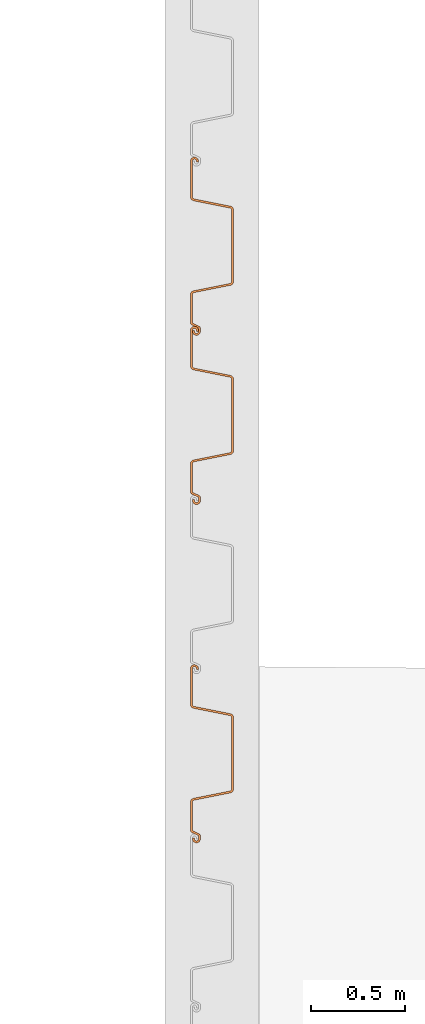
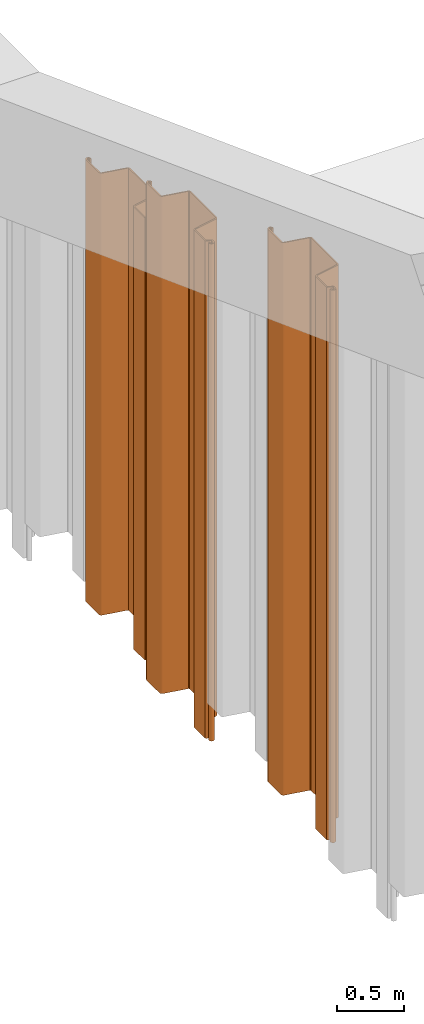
# One storey, part 14 of 15: 3 proxies.
"""IFC2X3 building model written with IfcOpenShell, lengths in millimetres."""

from ifc_helpers import new_model, entity, si_unit, converted_unit, derived_unit, direction, frame, frame_2d, origin, place, context, subcontext, project, spatial, polyline, circle_curve, parameter, trimmed, segment, composite_curve, outline, extrude, source, transform, mapped, material, type_object, type_shapes, element, save


model = new_model("IFC2X3")

# Units and contexts
model_context = context("Model", 3, precision=0.01, world=origin(), true_north=direction((6.12303176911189e-17, 1.0)))
body_context = subcontext(model_context, "Body", "Model", "MODEL_VIEW")
ifc_project = project(units=[si_unit("LENGTHUNIT", "METRE", prefix="MILLI"), si_unit("AREAUNIT", "SQUARE_METRE"), si_unit("VOLUMEUNIT", "CUBIC_METRE"), converted_unit("PLANEANGLEUNIT", "DEGREE", entity("IfcRatioMeasure", 0.0174532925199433), si_unit("PLANEANGLEUNIT", "RADIAN"), dimensions=[0, 0, 0, 0, 0, 0, 0]), si_unit("MASSUNIT", "GRAM", prefix="KILO"), derived_unit("MASSDENSITYUNIT", [(si_unit("MASSUNIT", "GRAM", prefix="KILO"), 1), (si_unit("LENGTHUNIT", "METRE"), -3)]), derived_unit("MOMENTOFINERTIAUNIT", [(si_unit("LENGTHUNIT", "METRE"), 4)]), si_unit("TIMEUNIT", "SECOND"), si_unit("FREQUENCYUNIT", "HERTZ"), si_unit("THERMODYNAMICTEMPERATUREUNIT", "DEGREE_CELSIUS"), derived_unit("THERMALTRANSMITTANCEUNIT", [(si_unit("MASSUNIT", "GRAM", prefix="KILO"), 1), (si_unit("THERMODYNAMICTEMPERATUREUNIT", "KELVIN"), -1), (si_unit("TIMEUNIT", "SECOND"), -3)]), derived_unit("VOLUMETRICFLOWRATEUNIT", [(si_unit("LENGTHUNIT", "METRE"), 3), (si_unit("TIMEUNIT", "SECOND"), -1)]), si_unit("ELECTRICCURRENTUNIT", "AMPERE"), si_unit("ELECTRICVOLTAGEUNIT", "VOLT"), si_unit("POWERUNIT", "WATT"), si_unit("FORCEUNIT", "NEWTON", prefix="KILO"), si_unit("ILLUMINANCEUNIT", "LUX"), si_unit("LUMINOUSFLUXUNIT", "LUMEN"), si_unit("LUMINOUSINTENSITYUNIT", "CANDELA"), derived_unit("USERDEFINED", [(si_unit("MASSUNIT", "GRAM", prefix="KILO"), -1), (si_unit("LENGTHUNIT", "METRE"), -2), (si_unit("TIMEUNIT", "SECOND"), 3), (si_unit("LUMINOUSFLUXUNIT", "LUMEN"), 1)]), derived_unit("LINEARVELOCITYUNIT", [(si_unit("LENGTHUNIT", "METRE"), 1), (si_unit("TIMEUNIT", "SECOND"), -1)]), si_unit("PRESSUREUNIT", "PASCAL"), derived_unit("USERDEFINED", [(si_unit("LENGTHUNIT", "METRE"), -2), (si_unit("MASSUNIT", "GRAM", prefix="KILO"), 1), (si_unit("TIMEUNIT", "SECOND"), -2)]), derived_unit("LINEARFORCEUNIT", [(si_unit("MASSUNIT", "GRAM", prefix="KILO"), 1), (si_unit("LENGTHUNIT", "METRE"), 1), (si_unit("TIMEUNIT", "SECOND"), -2), (si_unit("LENGTHUNIT", "METRE"), -1)]), derived_unit("PLANARFORCEUNIT", [(si_unit("MASSUNIT", "GRAM", prefix="KILO"), 1), (si_unit("LENGTHUNIT", "METRE"), 1), (si_unit("TIMEUNIT", "SECOND"), -2), (si_unit("LENGTHUNIT", "METRE"), -2)])], contexts=[model_context])

# Site, building, storey
site_placement = place(None, origin())
site = spatial("IfcSite", under=ifc_project, at=site_placement, Name="Default", CompositionType="ELEMENT")
building_placement = place(site_placement, origin())
building = spatial("IfcBuilding", under=site, at=building_placement, CompositionType="ELEMENT")
storey_placement = place(building_placement, frame((0.0, 0.0, 9500.0)))
storey = spatial("IfcBuildingStorey", under=building, at=storey_placement, Name="AP+9.500", CompositionType="ELEMENT", Elevation=9500.0)

# Proxies
ifc_material = material(Name="<Unnamed>")
building_element_proxy_type_1 = type_object("IfcBuildingElementProxyType", Name="鋼矢板10H型:鋼矢板10H型", PredefinedType="NOTDEFINED", material=ifc_material)
shared_shape_1 = source(origin(), body_context, "Body", "SweptSolid", [
    extrude(outline(composite_curve([segment(trimmed(circle_curve(frame_2d((85.3662976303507, 306.644432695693), x_axis=(0.422618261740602, 0.906307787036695)), 13.885714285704), [parameter(24.9999999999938)], [parameter(90.0000000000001)], True, "PARAMETER"), True, "CONTINUOUS"), segment(polyline([(72.7815666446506, 312.512789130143), (9.8129512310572, 177.476157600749)]), True, "CONTINUOUS"), segment(trimmed(circle_curve(frame_2d((29.3891994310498, 168.347603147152), x_axis=(0.422618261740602, 0.906307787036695)), 21.6), [parameter(90.0000000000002)], [parameter(168.69006752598)], True, "PARAMETER"), True, "CONTINUOUS"), segment(polyline([(16.598697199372, 150.941769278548), (175.329723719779, 34.2998683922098)]), True, "CONTINUOUS"), segment(trimmed(circle_curve(frame_2d((168.93447260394, 25.596951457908), x_axis=(0.422618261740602, 0.906307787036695)), 10.7999999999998), [parameter(270.0)], [parameter(348.690067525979)], True, "PARAMETER"), False, "CONTINUOUS"), segment(polyline([(178.722596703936, 21.0326742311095), (18.2974003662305, -323.000269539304)]), True, "CONTINUOUS"), segment(trimmed(circle_curve(frame_2d((8.50927626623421, -318.435992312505), x_axis=(0.422618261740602, 0.906307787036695)), 10.8), [parameter(191.30993247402)], [parameter(269.999999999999)], True, "PARAMETER"), False, "CONTINUOUS"), segment(polyline([(5.95324328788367, -328.929166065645), (-185.429973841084, -282.310113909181)]), True, "CONTINUOUS"), segment(trimmed(circle_curve(frame_2d((-190.542039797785, -303.296461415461), x_axis=(0.422618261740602, 0.906307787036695)), 21.6000000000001), [parameter(11.3099324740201)], [parameter(90.0000000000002)], True, "PARAMETER"), True, "CONTINUOUS"), segment(polyline([(-210.118287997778, -294.167906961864), (-290.330886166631, -466.184378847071)]), True, "CONTINUOUS"), segment(trimmed(circle_curve(frame_2d((-270.754637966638, -475.312933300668), x_axis=(0.422618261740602, 0.906307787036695)), 21.6), [parameter(90.0000000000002)], [parameter(269.999999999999)], True, "PARAMETER"), True, "CONTINUOUS"), segment(polyline([(-251.178389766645, -484.441487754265), (-249.065298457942, -479.909948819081)]), True, "CONTINUOUS"), segment(polyline([(-249.065298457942, -479.909948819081), (-258.853422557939, -475.345671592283)]), True, "CONTINUOUS"), segment(polyline([(-258.853422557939, -475.345671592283), (-260.966513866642, -479.877210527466)]), True, "CONTINUOUS"), segment(trimmed(circle_curve(frame_2d((-270.754637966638, -475.312933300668), x_axis=(0.422618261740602, 0.906307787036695)), 10.8), [parameter(90.0000000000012)], [parameter(270.0)], True, "PARAMETER"), False, "CONTINUOUS"), segment(polyline([(-280.542762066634, -470.748656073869), (-200.330163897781, -298.732184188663)]), True, "CONTINUOUS"), segment(trimmed(circle_curve(frame_2d((-190.542039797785, -303.296461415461), x_axis=(0.422618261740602, 0.906307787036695)), 10.8), [parameter(11.3099324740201)], [parameter(89.9999999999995)], True, "PARAMETER"), False, "CONTINUOUS"), segment(polyline([(-187.986006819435, -292.803287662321), (3.39721030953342, -339.422339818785)]), True, "CONTINUOUS"), segment(trimmed(circle_curve(frame_2d((8.50927626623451, -318.435992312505), x_axis=(0.422618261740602, 0.906307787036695)), 21.6), [parameter(191.30993247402)], [parameter(270.0)], True, "PARAMETER"), True, "CONTINUOUS"), segment(polyline([(28.0855244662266, -327.564546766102), (188.510720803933, 16.4683970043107)]), True, "CONTINUOUS"), segment(trimmed(circle_curve(frame_2d((168.93447260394, 25.5969514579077), x_axis=(0.422618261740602, 0.906307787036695)), 21.6), [parameter(270.0)], [parameter(348.69006752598)], True, "PARAMETER"), True, "CONTINUOUS"), segment(polyline([(181.724974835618, 43.0027853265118), (22.9939483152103, 159.644686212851)]), True, "CONTINUOUS"), segment(trimmed(circle_curve(frame_2d((29.3891994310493, 168.347603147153), x_axis=(0.422618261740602, 0.906307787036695)), 10.7999999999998), [parameter(89.9999999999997)], [parameter(168.690067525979)], True, "PARAMETER"), False, "CONTINUOUS"), segment(polyline([(19.6010753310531, 172.911880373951), (82.5696907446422, 307.948511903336)]), True, "CONTINUOUS"), segment(trimmed(circle_curve(frame_2d((85.3662976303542, 306.64443269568), x_axis=(0.422618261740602, 0.906307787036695)), 3.08571428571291), [parameter(25.0000000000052)], [parameter(90.0000000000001)], True, "PARAMETER"), False, "CONTINUOUS"), segment(polyline([(85.3662976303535, 309.730146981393), (122.220231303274, 309.730146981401)]), True, "CONTINUOUS"), segment(trimmed(circle_curve(frame_2d((122.220231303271, 323.615861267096), x_axis=(0.422618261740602, 0.906307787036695)), 13.8857142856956), [parameter(205.000000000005)], [parameter(270.0)], True, "PARAMETER"), True, "CONTINUOUS"), segment(polyline([(134.804962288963, 317.747504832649), (141.079261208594, 331.202782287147)]), True, "CONTINUOUS"), segment(trimmed(circle_curve(frame_2d((121.503013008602, 340.331336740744), x_axis=(0.422618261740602, 0.906307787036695)), 21.6), [parameter(270.0)], [parameter(90.0000000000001)], True, "PARAMETER"), True, "CONTINUOUS"), segment(polyline([(101.926764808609, 349.459891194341), (99.8136734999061, 344.928352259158)]), True, "CONTINUOUS"), segment(polyline([(99.8136734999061, 344.928352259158), (109.601797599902, 340.364075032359)]), True, "CONTINUOUS"), segment(polyline([(109.601797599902, 340.364075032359), (111.714888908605, 344.895613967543)]), True, "CONTINUOUS"), segment(trimmed(circle_curve(frame_2d((121.503013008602, 340.331336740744), x_axis=(0.422618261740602, 0.906307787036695)), 10.8), [parameter(270.0)], [parameter(89.9999999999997)], True, "PARAMETER"), False, "CONTINUOUS"), segment(polyline([(131.291137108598, 335.767059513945), (125.01683818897, 322.311782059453)]), True, "CONTINUOUS"), segment(trimmed(circle_curve(frame_2d((122.220231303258, 323.615861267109), x_axis=(0.422618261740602, 0.906307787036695)), 3.08571428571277), [parameter(204.999999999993)], [parameter(270.0)], True, "PARAMETER"), False, "CONTINUOUS"), segment(polyline([(122.220231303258, 320.530146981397), (85.3662976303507, 320.530146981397)]), True, "CONTINUOUS")], self_intersect=False)), frame((95.205667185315, -48.8888888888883, -4000.0), z_axis=(0.0, 0.0, -1.0), x_axis=(0.4226182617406, 0.906307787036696, 0.0)), (0.0, 0.0, -1.0), 4000.0),
])
type_shapes(building_element_proxy_type_1, [shared_shape_1])
proxy_1_placement = place(storey_placement, frame((89754.0, 24805.0, 137.165677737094), z_axis=(0.0, 0.0, 1.0), x_axis=(0.0, -1.0, 0.0)))
element("IfcBuildingElementProxy", 1, at=proxy_1_placement, inside=storey, type_object=building_element_proxy_type_1, material=ifc_material, Name="鋼矢板10H型:鋼矢板10H型", ObjectType="鋼矢板10H型:鋼矢板10H型", context=body_context, shape_type="MappedRepresentation", body=[
    mapped(shared_shape_1, transform((0.0, 0.0, 0.0), scale=1.0)),
])
building_element_proxy_type_2 = type_object("IfcBuildingElementProxyType", Name="鋼矢板10H型:鋼矢板10H型", PredefinedType="NOTDEFINED", material=ifc_material)
shared_shape_2 = source(origin(), body_context, "Body", "SweptSolid", [
    extrude(outline(composite_curve([segment(trimmed(circle_curve(frame_2d((85.3662976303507, 306.644432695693), x_axis=(0.422618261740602, 0.906307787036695)), 13.885714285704), [parameter(24.9999999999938)], [parameter(90.0000000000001)], True, "PARAMETER"), True, "CONTINUOUS"), segment(polyline([(72.7815666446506, 312.512789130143), (9.8129512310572, 177.476157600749)]), True, "CONTINUOUS"), segment(trimmed(circle_curve(frame_2d((29.3891994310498, 168.347603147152), x_axis=(0.422618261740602, 0.906307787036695)), 21.6), [parameter(90.0000000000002)], [parameter(168.69006752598)], True, "PARAMETER"), True, "CONTINUOUS"), segment(polyline([(16.598697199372, 150.941769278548), (175.329723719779, 34.2998683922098)]), True, "CONTINUOUS"), segment(trimmed(circle_curve(frame_2d((168.93447260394, 25.596951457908), x_axis=(0.422618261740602, 0.906307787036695)), 10.7999999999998), [parameter(270.0)], [parameter(348.690067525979)], True, "PARAMETER"), False, "CONTINUOUS"), segment(polyline([(178.722596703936, 21.0326742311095), (18.2974003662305, -323.000269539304)]), True, "CONTINUOUS"), segment(trimmed(circle_curve(frame_2d((8.50927626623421, -318.435992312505), x_axis=(0.422618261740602, 0.906307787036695)), 10.8), [parameter(191.30993247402)], [parameter(269.999999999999)], True, "PARAMETER"), False, "CONTINUOUS"), segment(polyline([(5.95324328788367, -328.929166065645), (-185.429973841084, -282.310113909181)]), True, "CONTINUOUS"), segment(trimmed(circle_curve(frame_2d((-190.542039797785, -303.296461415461), x_axis=(0.422618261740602, 0.906307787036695)), 21.6000000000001), [parameter(11.3099324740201)], [parameter(90.0000000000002)], True, "PARAMETER"), True, "CONTINUOUS"), segment(polyline([(-210.118287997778, -294.167906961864), (-290.330886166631, -466.184378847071)]), True, "CONTINUOUS"), segment(trimmed(circle_curve(frame_2d((-270.754637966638, -475.312933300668), x_axis=(0.422618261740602, 0.906307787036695)), 21.6), [parameter(90.0000000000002)], [parameter(269.999999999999)], True, "PARAMETER"), True, "CONTINUOUS"), segment(polyline([(-251.178389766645, -484.441487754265), (-249.065298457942, -479.909948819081)]), True, "CONTINUOUS"), segment(polyline([(-249.065298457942, -479.909948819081), (-258.853422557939, -475.345671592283)]), True, "CONTINUOUS"), segment(polyline([(-258.853422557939, -475.345671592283), (-260.966513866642, -479.877210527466)]), True, "CONTINUOUS"), segment(trimmed(circle_curve(frame_2d((-270.754637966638, -475.312933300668), x_axis=(0.422618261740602, 0.906307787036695)), 10.8), [parameter(90.0000000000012)], [parameter(270.0)], True, "PARAMETER"), False, "CONTINUOUS"), segment(polyline([(-280.542762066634, -470.748656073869), (-200.330163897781, -298.732184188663)]), True, "CONTINUOUS"), segment(trimmed(circle_curve(frame_2d((-190.542039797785, -303.296461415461), x_axis=(0.422618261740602, 0.906307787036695)), 10.8), [parameter(11.3099324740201)], [parameter(89.9999999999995)], True, "PARAMETER"), False, "CONTINUOUS"), segment(polyline([(-187.986006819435, -292.803287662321), (3.39721030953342, -339.422339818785)]), True, "CONTINUOUS"), segment(trimmed(circle_curve(frame_2d((8.50927626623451, -318.435992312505), x_axis=(0.422618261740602, 0.906307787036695)), 21.6), [parameter(191.30993247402)], [parameter(270.0)], True, "PARAMETER"), True, "CONTINUOUS"), segment(polyline([(28.0855244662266, -327.564546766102), (188.510720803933, 16.4683970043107)]), True, "CONTINUOUS"), segment(trimmed(circle_curve(frame_2d((168.93447260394, 25.5969514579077), x_axis=(0.422618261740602, 0.906307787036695)), 21.6), [parameter(270.0)], [parameter(348.69006752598)], True, "PARAMETER"), True, "CONTINUOUS"), segment(polyline([(181.724974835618, 43.0027853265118), (22.9939483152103, 159.644686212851)]), True, "CONTINUOUS"), segment(trimmed(circle_curve(frame_2d((29.3891994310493, 168.347603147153), x_axis=(0.422618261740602, 0.906307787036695)), 10.7999999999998), [parameter(89.9999999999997)], [parameter(168.690067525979)], True, "PARAMETER"), False, "CONTINUOUS"), segment(polyline([(19.6010753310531, 172.911880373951), (82.5696907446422, 307.948511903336)]), True, "CONTINUOUS"), segment(trimmed(circle_curve(frame_2d((85.3662976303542, 306.64443269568), x_axis=(0.422618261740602, 0.906307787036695)), 3.08571428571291), [parameter(25.0000000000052)], [parameter(90.0000000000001)], True, "PARAMETER"), False, "CONTINUOUS"), segment(polyline([(85.3662976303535, 309.730146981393), (122.220231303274, 309.730146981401)]), True, "CONTINUOUS"), segment(trimmed(circle_curve(frame_2d((122.220231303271, 323.615861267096), x_axis=(0.422618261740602, 0.906307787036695)), 13.8857142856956), [parameter(205.000000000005)], [parameter(270.0)], True, "PARAMETER"), True, "CONTINUOUS"), segment(polyline([(134.804962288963, 317.747504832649), (141.079261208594, 331.202782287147)]), True, "CONTINUOUS"), segment(trimmed(circle_curve(frame_2d((121.503013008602, 340.331336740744), x_axis=(0.422618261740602, 0.906307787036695)), 21.6), [parameter(270.0)], [parameter(90.0000000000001)], True, "PARAMETER"), True, "CONTINUOUS"), segment(polyline([(101.926764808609, 349.459891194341), (99.8136734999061, 344.928352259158)]), True, "CONTINUOUS"), segment(polyline([(99.8136734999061, 344.928352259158), (109.601797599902, 340.364075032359)]), True, "CONTINUOUS"), segment(polyline([(109.601797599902, 340.364075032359), (111.714888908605, 344.895613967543)]), True, "CONTINUOUS"), segment(trimmed(circle_curve(frame_2d((121.503013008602, 340.331336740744), x_axis=(0.422618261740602, 0.906307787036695)), 10.8), [parameter(270.0)], [parameter(89.9999999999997)], True, "PARAMETER"), False, "CONTINUOUS"), segment(polyline([(131.291137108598, 335.767059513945), (125.01683818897, 322.311782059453)]), True, "CONTINUOUS"), segment(trimmed(circle_curve(frame_2d((122.220231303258, 323.615861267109), x_axis=(0.422618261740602, 0.906307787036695)), 3.08571428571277), [parameter(204.999999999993)], [parameter(270.0)], True, "PARAMETER"), False, "CONTINUOUS"), segment(polyline([(122.220231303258, 320.530146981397), (85.3662976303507, 320.530146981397)]), True, "CONTINUOUS")], self_intersect=False)), frame((95.205667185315, -48.8888888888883, -4500.0), z_axis=(0.0, 0.0, -1.0), x_axis=(0.4226182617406, 0.906307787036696, 0.0)), (0.0, 0.0, -1.0), 4500.0),
])
type_shapes(building_element_proxy_type_2, [shared_shape_2])
proxy_2_placement = place(storey_placement, frame((89754.0, 23905.0, 473.309702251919), z_axis=(0.0, 0.0, 1.0), x_axis=(0.0, -1.0, 0.0)))
element("IfcBuildingElementProxy", 2, at=proxy_2_placement, inside=storey, type_object=building_element_proxy_type_2, material=ifc_material, Name="鋼矢板10H型:鋼矢板10H型", ObjectType="鋼矢板10H型:鋼矢板10H型", context=body_context, shape_type="MappedRepresentation", body=[
    mapped(shared_shape_2, transform((0.0, 0.0, 0.0), scale=1.0)),
])
building_element_proxy_type_3 = type_object("IfcBuildingElementProxyType", Name="鋼矢板10H型:鋼矢板10H型", PredefinedType="NOTDEFINED", material=ifc_material)
shared_shape_3 = source(origin(), body_context, "Body", "SweptSolid", [
    extrude(outline(composite_curve([segment(trimmed(circle_curve(frame_2d((85.3662976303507, 306.644432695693), x_axis=(0.422618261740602, 0.906307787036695)), 13.885714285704), [parameter(24.9999999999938)], [parameter(90.0000000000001)], True, "PARAMETER"), True, "CONTINUOUS"), segment(polyline([(72.7815666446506, 312.512789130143), (9.8129512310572, 177.476157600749)]), True, "CONTINUOUS"), segment(trimmed(circle_curve(frame_2d((29.3891994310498, 168.347603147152), x_axis=(0.422618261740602, 0.906307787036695)), 21.6), [parameter(90.0000000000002)], [parameter(168.69006752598)], True, "PARAMETER"), True, "CONTINUOUS"), segment(polyline([(16.598697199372, 150.941769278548), (175.329723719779, 34.2998683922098)]), True, "CONTINUOUS"), segment(trimmed(circle_curve(frame_2d((168.93447260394, 25.596951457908), x_axis=(0.422618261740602, 0.906307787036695)), 10.7999999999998), [parameter(270.0)], [parameter(348.690067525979)], True, "PARAMETER"), False, "CONTINUOUS"), segment(polyline([(178.722596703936, 21.0326742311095), (18.2974003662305, -323.000269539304)]), True, "CONTINUOUS"), segment(trimmed(circle_curve(frame_2d((8.50927626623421, -318.435992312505), x_axis=(0.422618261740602, 0.906307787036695)), 10.8), [parameter(191.30993247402)], [parameter(269.999999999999)], True, "PARAMETER"), False, "CONTINUOUS"), segment(polyline([(5.95324328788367, -328.929166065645), (-185.429973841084, -282.310113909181)]), True, "CONTINUOUS"), segment(trimmed(circle_curve(frame_2d((-190.542039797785, -303.296461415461), x_axis=(0.422618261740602, 0.906307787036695)), 21.6000000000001), [parameter(11.3099324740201)], [parameter(90.0000000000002)], True, "PARAMETER"), True, "CONTINUOUS"), segment(polyline([(-210.118287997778, -294.167906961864), (-290.330886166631, -466.184378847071)]), True, "CONTINUOUS"), segment(trimmed(circle_curve(frame_2d((-270.754637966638, -475.312933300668), x_axis=(0.422618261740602, 0.906307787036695)), 21.6), [parameter(90.0000000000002)], [parameter(269.999999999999)], True, "PARAMETER"), True, "CONTINUOUS"), segment(polyline([(-251.178389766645, -484.441487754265), (-249.065298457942, -479.909948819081)]), True, "CONTINUOUS"), segment(polyline([(-249.065298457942, -479.909948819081), (-258.853422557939, -475.345671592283)]), True, "CONTINUOUS"), segment(polyline([(-258.853422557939, -475.345671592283), (-260.966513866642, -479.877210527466)]), True, "CONTINUOUS"), segment(trimmed(circle_curve(frame_2d((-270.754637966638, -475.312933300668), x_axis=(0.422618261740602, 0.906307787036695)), 10.8), [parameter(90.0000000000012)], [parameter(270.0)], True, "PARAMETER"), False, "CONTINUOUS"), segment(polyline([(-280.542762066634, -470.748656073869), (-200.330163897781, -298.732184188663)]), True, "CONTINUOUS"), segment(trimmed(circle_curve(frame_2d((-190.542039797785, -303.296461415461), x_axis=(0.422618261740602, 0.906307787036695)), 10.8), [parameter(11.3099324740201)], [parameter(89.9999999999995)], True, "PARAMETER"), False, "CONTINUOUS"), segment(polyline([(-187.986006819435, -292.803287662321), (3.39721030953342, -339.422339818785)]), True, "CONTINUOUS"), segment(trimmed(circle_curve(frame_2d((8.50927626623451, -318.435992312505), x_axis=(0.422618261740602, 0.906307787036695)), 21.6), [parameter(191.30993247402)], [parameter(270.0)], True, "PARAMETER"), True, "CONTINUOUS"), segment(polyline([(28.0855244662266, -327.564546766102), (188.510720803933, 16.4683970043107)]), True, "CONTINUOUS"), segment(trimmed(circle_curve(frame_2d((168.93447260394, 25.5969514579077), x_axis=(0.422618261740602, 0.906307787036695)), 21.6), [parameter(270.0)], [parameter(348.69006752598)], True, "PARAMETER"), True, "CONTINUOUS"), segment(polyline([(181.724974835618, 43.0027853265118), (22.9939483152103, 159.644686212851)]), True, "CONTINUOUS"), segment(trimmed(circle_curve(frame_2d((29.3891994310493, 168.347603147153), x_axis=(0.422618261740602, 0.906307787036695)), 10.7999999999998), [parameter(89.9999999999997)], [parameter(168.690067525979)], True, "PARAMETER"), False, "CONTINUOUS"), segment(polyline([(19.6010753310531, 172.911880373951), (82.5696907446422, 307.948511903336)]), True, "CONTINUOUS"), segment(trimmed(circle_curve(frame_2d((85.3662976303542, 306.64443269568), x_axis=(0.422618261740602, 0.906307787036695)), 3.08571428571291), [parameter(25.0000000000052)], [parameter(90.0000000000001)], True, "PARAMETER"), False, "CONTINUOUS"), segment(polyline([(85.3662976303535, 309.730146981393), (122.220231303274, 309.730146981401)]), True, "CONTINUOUS"), segment(trimmed(circle_curve(frame_2d((122.220231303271, 323.615861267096), x_axis=(0.422618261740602, 0.906307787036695)), 13.8857142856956), [parameter(205.000000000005)], [parameter(270.0)], True, "PARAMETER"), True, "CONTINUOUS"), segment(polyline([(134.804962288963, 317.747504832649), (141.079261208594, 331.202782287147)]), True, "CONTINUOUS"), segment(trimmed(circle_curve(frame_2d((121.503013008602, 340.331336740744), x_axis=(0.422618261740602, 0.906307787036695)), 21.6), [parameter(270.0)], [parameter(90.0000000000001)], True, "PARAMETER"), True, "CONTINUOUS"), segment(polyline([(101.926764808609, 349.459891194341), (99.8136734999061, 344.928352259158)]), True, "CONTINUOUS"), segment(polyline([(99.8136734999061, 344.928352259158), (109.601797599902, 340.364075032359)]), True, "CONTINUOUS"), segment(polyline([(109.601797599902, 340.364075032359), (111.714888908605, 344.895613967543)]), True, "CONTINUOUS"), segment(trimmed(circle_curve(frame_2d((121.503013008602, 340.331336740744), x_axis=(0.422618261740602, 0.906307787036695)), 10.8), [parameter(270.0)], [parameter(89.9999999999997)], True, "PARAMETER"), False, "CONTINUOUS"), segment(polyline([(131.291137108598, 335.767059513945), (125.01683818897, 322.311782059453)]), True, "CONTINUOUS"), segment(trimmed(circle_curve(frame_2d((122.220231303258, 323.615861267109), x_axis=(0.422618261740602, 0.906307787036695)), 3.08571428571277), [parameter(204.999999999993)], [parameter(270.0)], True, "PARAMETER"), False, "CONTINUOUS"), segment(polyline([(122.220231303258, 320.530146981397), (85.3662976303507, 320.530146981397)]), True, "CONTINUOUS")], self_intersect=False)), frame((95.205667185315, -48.8888888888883, -5000.0), z_axis=(0.0, 0.0, -1.0), x_axis=(0.4226182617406, 0.906307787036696, 0.0)), (0.0, 0.0, -1.0), 5000.0),
])
type_shapes(building_element_proxy_type_3, [shared_shape_3])
proxy_3_placement = place(storey_placement, frame((89754.0, 22105.0, 1145.59775128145), z_axis=(0.0, 0.0, 1.0), x_axis=(0.0, -1.0, 0.0)))
element("IfcBuildingElementProxy", 3, at=proxy_3_placement, inside=storey, type_object=building_element_proxy_type_3, material=ifc_material, Name="鋼矢板10H型:鋼矢板10H型", ObjectType="鋼矢板10H型:鋼矢板10H型", context=body_context, shape_type="MappedRepresentation", body=[
    mapped(shared_shape_3, transform((0.0, 0.0, 0.0), scale=1.0)),
])

save(model, "model.ifc")
